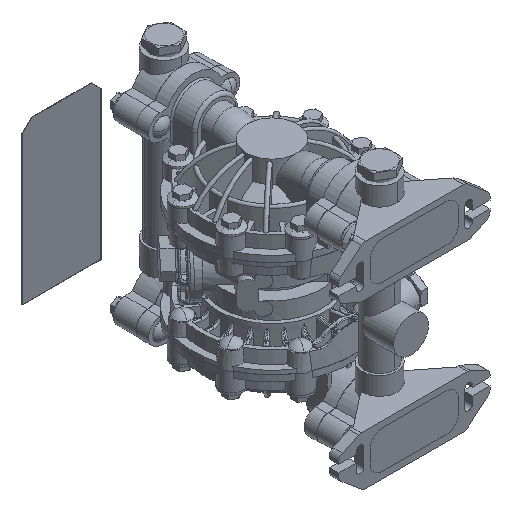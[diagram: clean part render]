
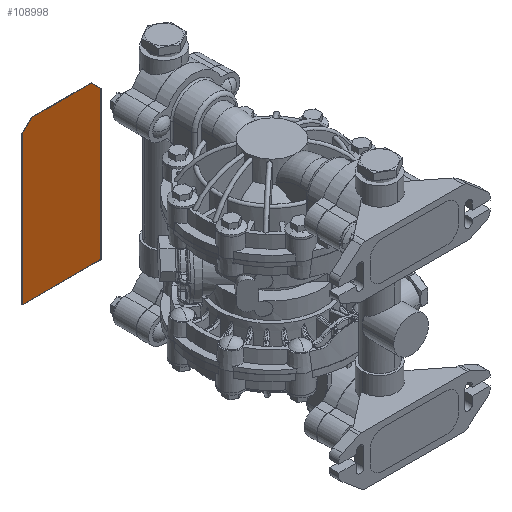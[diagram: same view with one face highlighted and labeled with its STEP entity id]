
A CAD part, isometric view. The second image highlights one B-rep face of the part: STEP entity #108998.
In plain terms, the highlighted planar face has unit normal (0, -1, 0).
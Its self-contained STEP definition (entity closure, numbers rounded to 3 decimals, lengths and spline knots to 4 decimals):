
#108883=DIRECTION('',(0.707,0.,0.707));
#108884=VECTOR('',#108883,0.5303);
#108885=CARTESIAN_POINT('',(-3.56,6.3388,2.75));
#108886=LINE('',#108885,#108884);
#108887=DIRECTION('',(1.,0.,0.));
#108888=VECTOR('',#108887,2.37);
#108889=CARTESIAN_POINT('',(-3.185,6.3388,3.125));
#108890=LINE('',#108889,#108888);
#108891=DIRECTION('',(0.707,0.,-0.707));
#108892=VECTOR('',#108891,0.5303);
#108893=CARTESIAN_POINT('',(-0.815,6.3388,3.125));
#108894=LINE('',#108893,#108892);
#108895=DIRECTION('',(0.,0.,-1.));
#108896=VECTOR('',#108895,5.875);
#108897=CARTESIAN_POINT('',(-0.44,6.3388,2.75));
#108898=LINE('',#108897,#108896);
#108899=DIRECTION('',(-1.,0.,0.));
#108900=VECTOR('',#108899,3.12);
#108901=CARTESIAN_POINT('',(-0.44,6.3388,-3.125));
#108902=LINE('',#108901,#108900);
#108903=DIRECTION('',(0.,0.,1.));
#108904=VECTOR('',#108903,5.875);
#108905=CARTESIAN_POINT('',(-3.56,6.3388,-3.125));
#108906=LINE('',#108905,#108904);
#108955=CARTESIAN_POINT('',(-3.56,6.3388,2.75));
#108956=CARTESIAN_POINT('',(-3.185,6.3388,3.125));
#108957=VERTEX_POINT('',#108955);
#108958=VERTEX_POINT('',#108956);
#108959=CARTESIAN_POINT('',(-0.815,6.3388,3.125));
#108960=VERTEX_POINT('',#108959);
#108961=CARTESIAN_POINT('',(-0.44,6.3388,2.75));
#108962=VERTEX_POINT('',#108961);
#108963=CARTESIAN_POINT('',(-0.44,6.3388,-3.125));
#108964=VERTEX_POINT('',#108963);
#108965=CARTESIAN_POINT('',(-3.56,6.3388,-3.125));
#108966=VERTEX_POINT('',#108965);
#108979=CARTESIAN_POINT('',(-2.,6.3388,0.));
#108980=DIRECTION('',(0.,1.,0.));
#108981=DIRECTION('',(0.,0.,-1.));
#108982=AXIS2_PLACEMENT_3D('',#108979,#108980,#108981);
#108983=PLANE('',#108982);
#108985=ORIENTED_EDGE('',*,*,#108984,.T.);
#108987=ORIENTED_EDGE('',*,*,#108986,.T.);
#108989=ORIENTED_EDGE('',*,*,#108988,.T.);
#108991=ORIENTED_EDGE('',*,*,#108990,.T.);
#108993=ORIENTED_EDGE('',*,*,#108992,.T.);
#108995=ORIENTED_EDGE('',*,*,#108994,.T.);
#108996=EDGE_LOOP('',(#108985,#108987,#108989,#108991,#108993,#108995));
#108997=FACE_OUTER_BOUND('',#108996,.F.);
#108998=ADVANCED_FACE('',(#108997),#108983,.F.);
#108984=EDGE_CURVE('',#108957,#108958,#108886,.T.);
#108986=EDGE_CURVE('',#108958,#108960,#108890,.T.);
#108988=EDGE_CURVE('',#108960,#108962,#108894,.T.);
#108990=EDGE_CURVE('',#108962,#108964,#108898,.T.);
#108992=EDGE_CURVE('',#108964,#108966,#108902,.T.);
#108994=EDGE_CURVE('',#108966,#108957,#108906,.T.);
